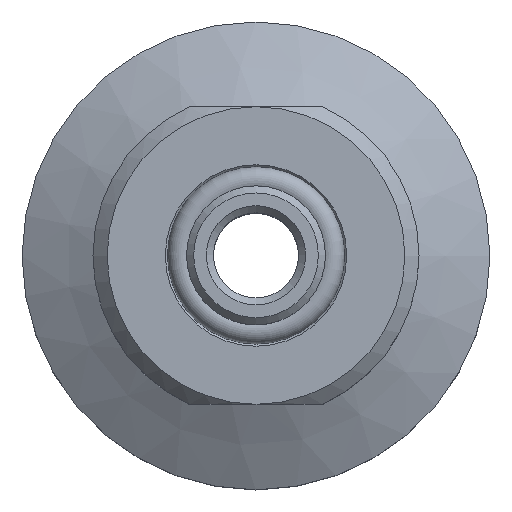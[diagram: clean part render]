
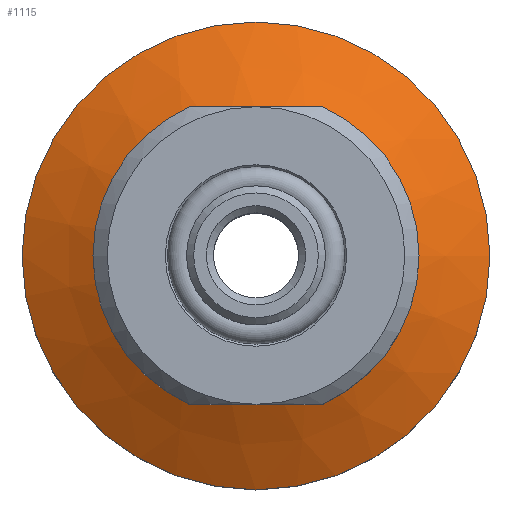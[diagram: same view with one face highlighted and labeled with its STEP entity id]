
A CAD part, top view. The second image highlights one B-rep face of the part: STEP entity #1115.
In plain terms, the highlighted conical face has half-angle 61.454 degrees and reference radius 16.5 mm.
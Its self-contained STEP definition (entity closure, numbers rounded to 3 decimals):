
#1115 = ADVANCED_FACE( '', ( #2047, #2048 ), #2049, .T. );
#2047 = FACE_OUTER_BOUND( '', #2587, .T. );
#2048 = FACE_BOUND( '', #2588, .T. );
#2049 = CONICAL_SURFACE( '', #2589, 16.5, 1.073 );
#2587 = EDGE_LOOP( '', ( #3318 ) );
#2588 = EDGE_LOOP( '', ( #3319 ) );
#2589 = AXIS2_PLACEMENT_3D( '', #3320, #3321, #3322 );
#3318 = ORIENTED_EDGE( '', *, *, #4776, .T. );
#3319 = ORIENTED_EDGE( '', *, *, #4778, .F. );
#3320 = CARTESIAN_POINT( '', ( 0., 0., -2.765 ) );
#3321 = DIRECTION( '', ( 0., 0., -1. ) );
#3322 = DIRECTION( '', ( -1., 0., 0. ) );
#4776 = EDGE_CURVE( '', #5205, #5205, #5206, .T. );
#4778 = EDGE_CURVE( '', #5209, #5209, #5210, .T. );
#5205 = VERTEX_POINT( '', #5395 );
#5206 = CIRCLE( '', #5396, 16.5 );
#5209 = VERTEX_POINT( '', #5399 );
#5210 = CIRCLE( '', #5400, 10.25 );
#5395 = CARTESIAN_POINT( '', ( 16.5, 0., -2.765 ) );
#5396 = AXIS2_PLACEMENT_3D( '', #5657, #5658, #5659 );
#5399 = CARTESIAN_POINT( '', ( 10.25, 0., 0.635 ) );
#5400 = AXIS2_PLACEMENT_3D( '', #5663, #5664, #5665 );
#5657 = CARTESIAN_POINT( '', ( 0., 0., -2.765 ) );
#5658 = DIRECTION( '', ( 0., 0., 1. ) );
#5659 = DIRECTION( '', ( 1., 0., 0. ) );
#5663 = CARTESIAN_POINT( '', ( 0., 0., 0.635 ) );
#5664 = DIRECTION( '', ( 0., 0., 1. ) );
#5665 = DIRECTION( '', ( 1., 0., 0. ) );
